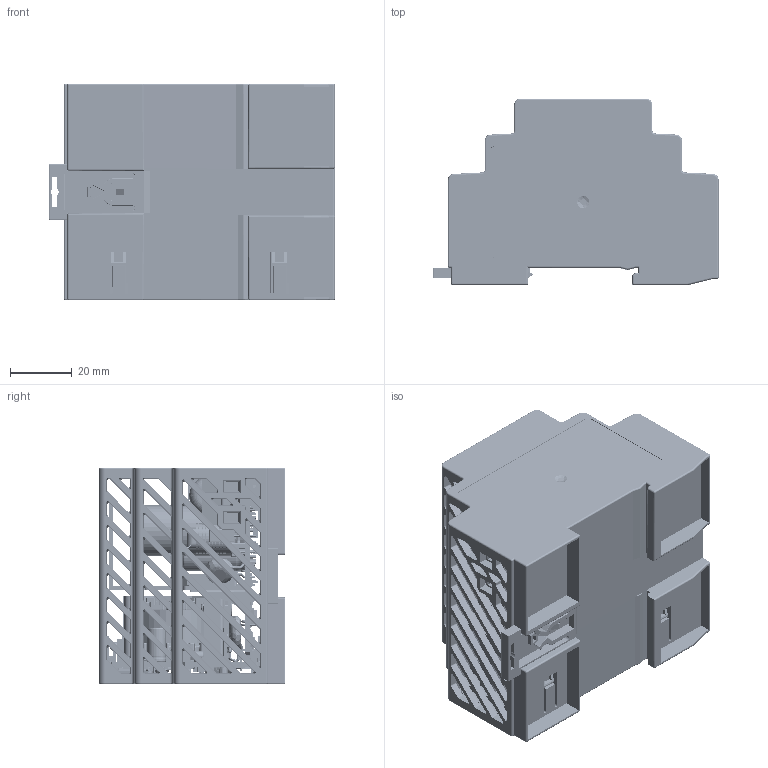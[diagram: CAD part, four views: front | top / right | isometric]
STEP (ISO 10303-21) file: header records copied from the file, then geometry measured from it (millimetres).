
FILE_DESCRIPTION((''),'2;1');
FILE_NAME('DRC-100W1RZ_ASM_ASM','2023-11-30T11:08:44',('EUNICE.HUANG'),(''),'CREO PARAMETRIC BY PTC INC, 2020053','CREO PARAMETRIC BY PTC INC, 2020053','');
FILE_SCHEMA(('CONFIG_CONTROL_DESIGN','GEOMETRIC_VALIDATION_PROPERTIES_MIM'));
Products named in the file (423): BOARD-417_1; L_PIN_L_1; 3348377000_1; I_PIN_1; T23PK28-6093_1; M3_L7_1; NUT-247_1; M3L7_ASM_ASM_1_ASM; 3348377000_Q101_ASM_1_ASM; HS101_ASM_1_ASM; 0341041342-BODY-12243_1; 0341041342-COATING-12684_1; 0341041342-12229_ASM_1_ASM; R42_ASM_1_ASM; R41_ASM_1_ASM; OPEN_CASCADE_STEP_TRANSLA-12931; OPEN_CASCADE_STEP_TRANSLA-14648; 204522500107-12917_ASM_1_ASM; Q33_ASM_1_ASM; 1512445002-1-14949_1; 1512445002-14939_ASM_1_ASM; C41_ASM_1_ASM; 3411000300_1; J102_ASM_1_ASM; 3247719900__1__1; BB4_ASM_1_ASM; BB3_ASM_1_ASM; BB2_ASM_1_ASM; BB1_ASM_1_ASM; 2300320505-17078_1; 2300320505-17068_ASM_1_ASM; LED101_ASM_1_ASM; 2510990680_1; IC101_ASM_1_ASM; J106_ASM_1_ASM; 3411000700_1; J105_ASM_1_ASM; R105_ASM_1_ASM; 242017411235_H17_1; Q1_ASM_1_ASM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
Assembly tree (642 placements, depth 10):
  DRC-100W1RZ_ASM_ASM
    DRC-100W_20230425_ASM_1_ASM
      PCB_ASM_1_ASM
        BOARD-417_1
        HS101_ASM_1_ASM
          3348377000_Q101_ASM_1_ASM
            L_PIN_L_1
            3348377000_1
            I_PIN_1
            T23PK28-6093_1
            M3L7_ASM_ASM_1_ASM
              M3_L7_1
              NUT-247_1
        R42_ASM_1_ASM
          0341041342-12229_ASM_1_ASM
            0341041342-BODY-12243_1
            0341041342-COATING-12684_1
        R41_ASM_1_ASM
          0341041342-12229_ASM_1_ASM
            0341041342-BODY-12243_1
            0341041342-COATING-12684_1
        Q33_ASM_1_ASM
          204522500107-12917_ASM_1_ASM
            OPEN_CASCADE_STEP_TRANSLA-12931
            OPEN_CASCADE_STEP_TRANSLA-14648
        C41_ASM_1_ASM
          1512445002-14939_ASM_1_ASM
            1512445002-1-14949_1
        J102_ASM_1_ASM
          3411000300_1
        BB4_ASM_1_ASM
          3247719900__1__1
        BB3_ASM_1_ASM
          3247719900__1__1
        BB2_ASM_1_ASM
          3247719900__1__1
        BB1_ASM_1_ASM
          3247719900__1__1
        LED101_ASM_1_ASM
          2300320505-17068_ASM_1_ASM
            2300320505-17078_1
        IC101_ASM_1_ASM
          2510990680_1
        J106_ASM_1_ASM
          0341041342-12229_ASM_1_ASM
            0341041342-BODY-12243_1
            0341041342-COATING-12684_1
        J105_ASM_1_ASM
          3411000700_1
        R105_ASM_1_ASM
          0341041342-12229_ASM_1_ASM
            0341041342-BODY-12243_1
            0341041342-COATING-12684_1
        Q1_ASM_1_ASM
          242017411235_H17_1
        CY201_ASM_1_ASM
          110C047238_1
        CY200_ASM_1_ASM
          110C047238_1
        C6_ASM_1_ASM
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Bounding box: 92.22 x 60.2 x 70 mm (x, y, z)
Volume: 115782 mm3; surface area: 144061.1 mm2
Topology: 462 solids, 462 shells, 12160 faces, 31243 edges, 20002 vertices
Faces by surface type: plane 6988, cylinder 3812, torus 798, bspline 279, cone 141, sphere 126, revolution 8, extrusion 8
Entity records: 346956 total; most frequent: CARTESIAN_POINT 87091, DIRECTION 40962, ORIENTED_EDGE 40118, EDGE_CURVE 20059, PRESENTATION_STYLE_ASSIGNMENT 14359, STYLED_ITEM 14185, AXIS2_PLACEMENT_3D 13814, VECTOR 13330
